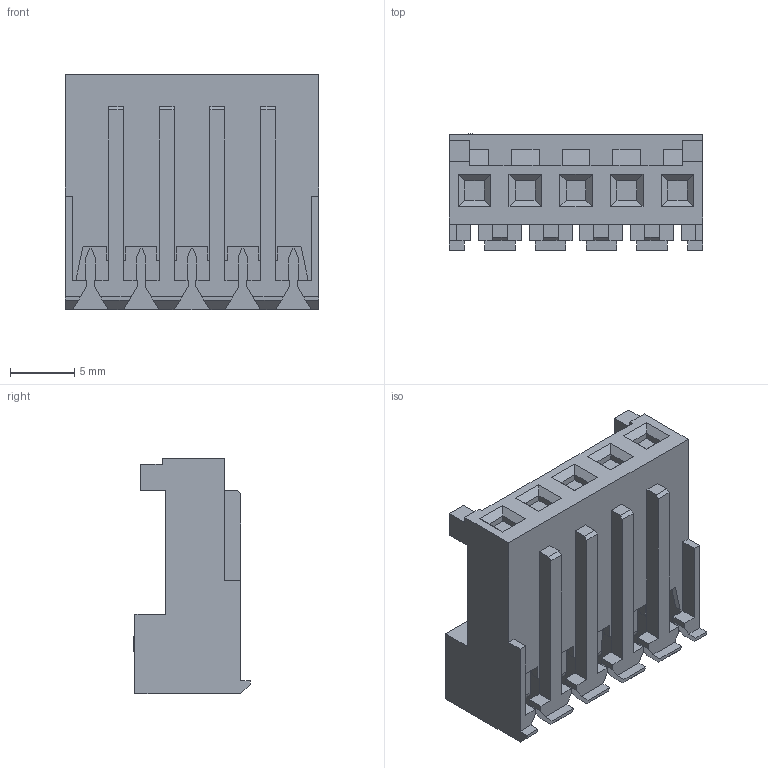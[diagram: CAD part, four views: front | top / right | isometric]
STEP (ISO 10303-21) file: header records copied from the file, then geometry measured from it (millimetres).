
FILE_DESCRIPTION((''),'2;1');
FILE_NAME('C-3-643817-5','2012-11-02T',('workeradm'),('Tyco Electronics Ltd.'),'PRO/ENGINEER BY PARAMETRIC TECHNOLOGY CORPORATION, 2010430','PRO/ENGINEER BY PARAMETRIC TECHNOLOGY CORPORATION, 2010430','');
FILE_SCHEMA(('AUTOMOTIVE_DESIGN { 1 0 10303 214 1 1 1 1 }'));
Length unit declared in the file: millimetre
Products named in the file (1): C-3-643817-5
Bounding box: 19.81 x 9.12 x 18.41 mm (x, y, z)
Volume: 1667.3 mm3; surface area: 2229.6 mm2
Topology: 1 solids, 1 shells, 473 faces, 1412 edges, 922 vertices
Faces by surface type: plane 433, cylinder 40
Entity records: 15913 total; most frequent: ORIENTED_EDGE 2824, CARTESIAN_POINT 2809, DIRECTION 2438, EDGE_CURVE 1412, VECTOR 1332, LINE 1332, VERTEX_POINT 922, AXIS2_PLACEMENT_3D 553
